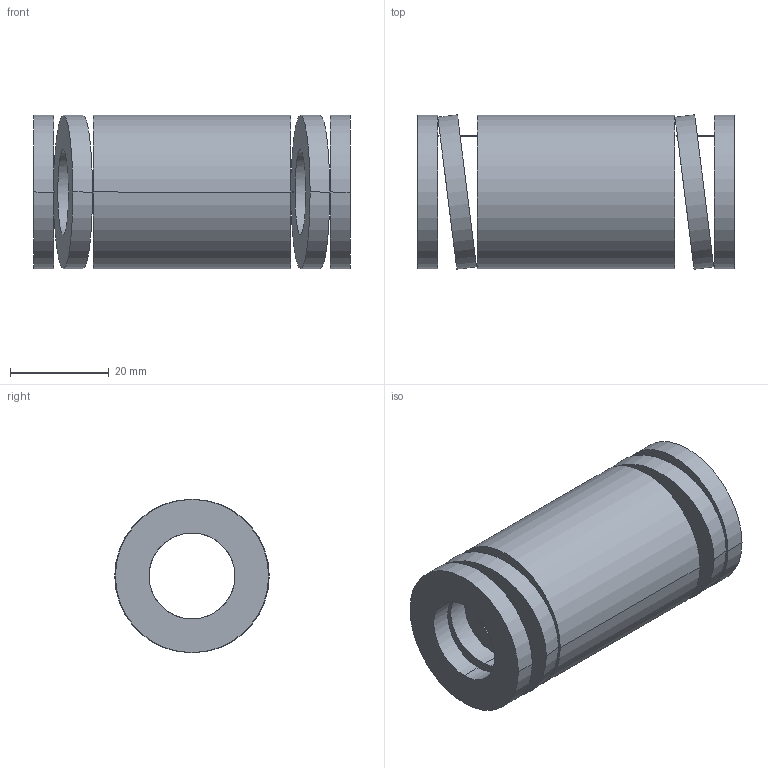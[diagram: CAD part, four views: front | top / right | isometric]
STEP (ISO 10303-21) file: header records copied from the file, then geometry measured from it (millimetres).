
FILE_DESCRIPTION(('CATIA V5 STEP Exchange'),'2;1');
FILE_NAME('C:\Users\Utente\Desktop\IO LAVORO\3D X SITO CF\X SITO\3D files 392B\392-B32-064.stp','2021-08-13T10:09:53+00:00',('none'),('none'),'CATIA Version 5 Release 20 GA (IN-10)','CATIA V5 STEP AP203','none');
FILE_SCHEMA(('CONFIG_CONTROL_DESIGN'));
Length unit declared in the file: millimetre
Products named in the file (1): 392-B32-064
Bounding box: 64 x 31.26 x 31 mm (x, y, z)
Volume: 28936.4 mm3; surface area: 13685.5 mm2
Topology: 1 solids, 1 shells, 38 faces, 92 edges, 64 vertices
Faces by surface type: cylinder 28, plane 10
Entity records: 1542 total; most frequent: CARTESIAN_POINT 643, ORIENTED_EDGE 184, DIRECTION 134, EDGE_CURVE 92, AXIS2_PLACEMENT_3D 69, VERTEX_POINT 64, EDGE_LOOP 56, ADVANCED_FACE 38
